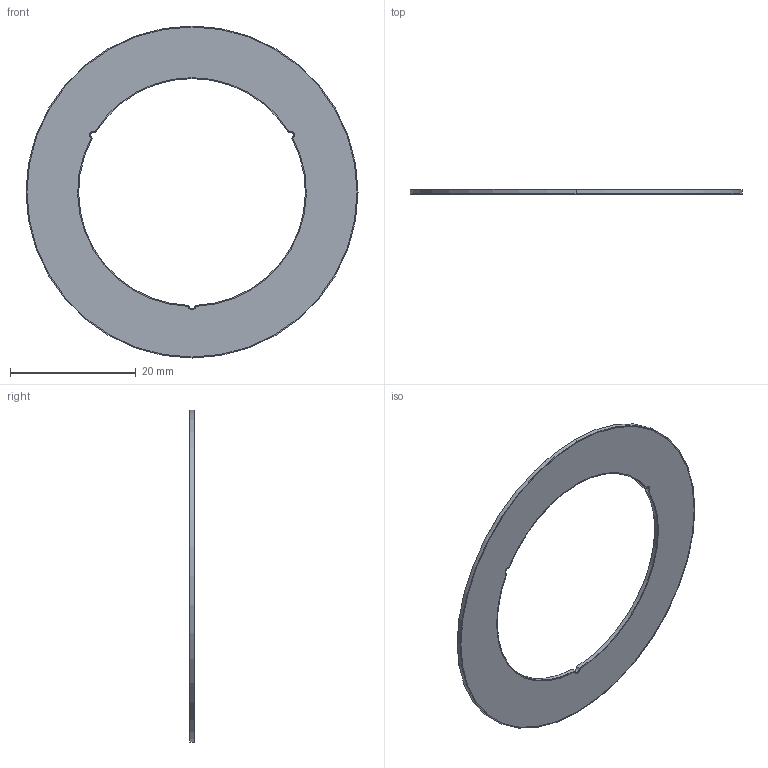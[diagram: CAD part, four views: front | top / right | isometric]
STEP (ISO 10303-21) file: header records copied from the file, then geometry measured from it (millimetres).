
FILE_DESCRIPTION (( 'STEP AP214' ), '1' );
FILE_NAME ('Posic_TPCD06-128.STEP', '2018-07-20T09:43:54', ( '' ), ( '' ), 'SwSTEP 2.0', 'SolidWorks 2018', '' );
FILE_SCHEMA (( 'AUTOMOTIVE_DESIGN' ));
Length unit declared in the file: millimetre
Products named in the file (1): Posic_TPCD06-128
Bounding box: 52.7 x 0.72 x 52.7 mm (x, y, z)
Volume: 815.6 mm3; surface area: 2588.1 mm2
Topology: 1 solids, 1 shells, 1303 faces, 3132 edges, 2088 vertices
Faces by surface type: plane 769, cylinder 534
Entity records: 52331 total; most frequent: DIRECTION 6808, CARTESIAN_POINT 6524, ORIENTED_EDGE 6264, EDGE_CURVE 3132, AXIS2_PLACEMENT_3D 2372, VERTEX_POINT 2088, LINE 2064, VECTOR 2064
